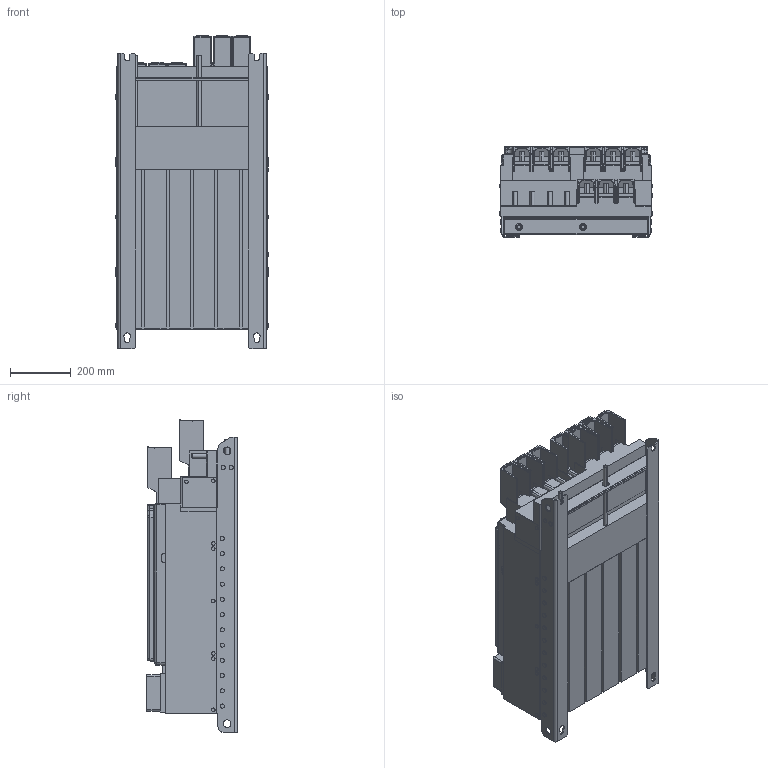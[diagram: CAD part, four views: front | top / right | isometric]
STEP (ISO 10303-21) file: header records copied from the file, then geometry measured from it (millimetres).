
FILE_DESCRIPTION (( 'STEP AP214' ), '1' );
FILE_NAME ('F6-9TW0-P151.STEP', '2022-12-21T09:40:58', ( '' ), ( '' ), 'SwSTEP 2.0', 'SolidWorks 2022', '' );
FILE_SCHEMA (( 'AUTOMOTIVE_DESIGN' ));
Length unit declared in the file: millimetre
Products named in the file (12): 10059666_000_Kundenmodell (mit BW''s); 10054881_000_Deckel (Kundenmodell); Kundenmodell^10049764_000; Kundenmodell^10054881_000; Kundenmodell^10051076_000_Kundenmodell mit Geberbuchsen; Kundenmodell^10059764_000; F6-9TW0-P151; 10049764_000_Kundenmodell; 10051076_000_Kundenmodell; 10059764_000_Blindabdeckung (Kundenmodell); 10068273_000_Kundenmodell mit BW; Kundenmodell mit BW^10068273_000
Assembly tree (11 placements, depth 4):
  F6-9TW0-P151
    10059666_000_Kundenmodell (mit BW''s)
      10068273_000_Kundenmodell mit BW
        Kundenmodell mit BW^10068273_000
    10049764_000_Kundenmodell
      Kundenmodell^10049764_000
    10051076_000_Kundenmodell
      10059764_000_Blindabdeckung (Kundenmodell)
        Kundenmodell^10059764_000
      Kundenmodell^10051076_000_Kundenmodell mit Geberbuchsen
    10054881_000_Deckel (Kundenmodell)
      Kundenmodell^10054881_000
Bounding box: 502.5 x 296.5 x 1028.38 mm (x, y, z)
Volume: 98314193.7 mm3; surface area: 4414242.6 mm2
Topology: 5 solids, 5 shells, 2701 faces, 7011 edges, 4392 vertices
Faces by surface type: plane 1277, cylinder 881, bspline 258, cone 120, sphere 92, torus 73
Entity records: 90401 total; most frequent: CARTESIAN_POINT 25884, ORIENTED_EDGE 13854, DIRECTION 12759, EDGE_CURVE 6927, VERTEX_POINT 4392, AXIS2_PLACEMENT_3D 4259, LINE 4241, VECTOR 4241
